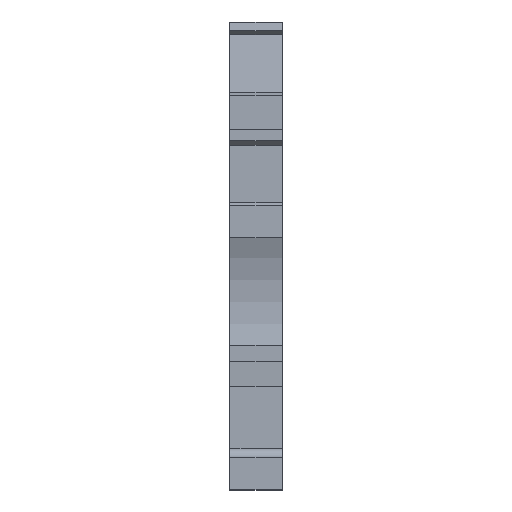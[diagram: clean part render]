
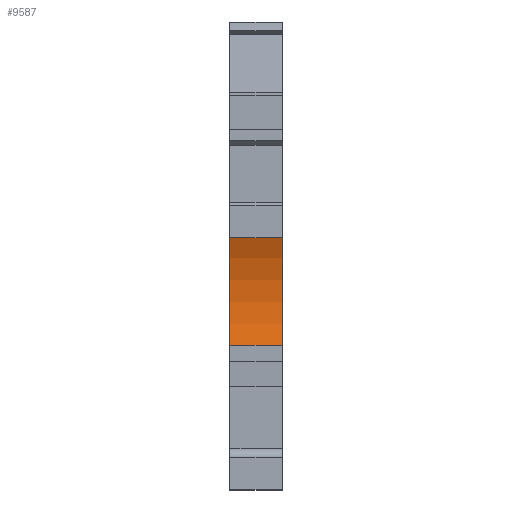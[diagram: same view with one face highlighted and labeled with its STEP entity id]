
A CAD part, front view. The second image highlights one B-rep face of the part: STEP entity #9587.
In plain terms, the highlighted cylindrical face has radius 15 mm (diameter 30 mm), a partial arc.
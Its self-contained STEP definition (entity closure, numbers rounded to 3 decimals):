
#676=CARTESIAN_POINT('',(5.15,0.,24.838));
#677=VERTEX_POINT('',#676);
#684=CARTESIAN_POINT('',(5.15,0.6,14.25));
#685=VERTEX_POINT('',#684);
#686=CARTESIAN_POINT('',(5.15,-13.709,18.75));
#687=DIRECTION('',(1.,0.,0.));
#688=DIRECTION('',(0.,0.,-1.));
#689=AXIS2_PLACEMENT_3D('',#686,#687,#688);
#690=CIRCLE('',#689,15.);
#691=EDGE_CURVE('',#685,#677,#690,.T.);
#1333=CARTESIAN_POINT('',(0.,0.6,14.25));
#1334=VERTEX_POINT('',#1333);
#1341=CARTESIAN_POINT('',(0.,0.,24.838));
#1342=VERTEX_POINT('',#1341);
#1343=CARTESIAN_POINT('',(0.,-13.709,18.75));
#1344=DIRECTION('',(1.,0.,0.));
#1345=DIRECTION('',(0.,0.,-1.));
#1346=AXIS2_PLACEMENT_3D('',#1343,#1344,#1345);
#1347=CIRCLE('',#1346,15.);
#1348=EDGE_CURVE('',#1334,#1342,#1347,.T.);
#2382=CARTESIAN_POINT('',(0.,0.6,14.25));
#2383=DIRECTION('',(1.,0.,0.));
#2384=VECTOR('',#2383,5.15);
#2385=LINE('',#2382,#2384);
#2386=EDGE_CURVE('',#1334,#685,#2385,.T.);
#2397=CARTESIAN_POINT('',(0.,0.,24.838));
#2398=DIRECTION('',(1.,0.,0.));
#2399=VECTOR('',#2398,5.15);
#2400=LINE('',#2397,#2399);
#2401=EDGE_CURVE('',#1342,#677,#2400,.T.);
#9576=CARTESIAN_POINT('',(0.,-13.709,18.75));
#9577=DIRECTION('',(1.,0.,0.));
#9578=DIRECTION('',(0.,0.,-1.));
#9579=AXIS2_PLACEMENT_3D('',#9576,#9577,#9578);
#9580=CYLINDRICAL_SURFACE('',#9579,15.);
#9581=ORIENTED_EDGE('',*,*,#2386,.T.);
#9582=ORIENTED_EDGE('',*,*,#691,.T.);
#9583=ORIENTED_EDGE('',*,*,#2401,.F.);
#9584=ORIENTED_EDGE('',*,*,#1348,.F.);
#9585=EDGE_LOOP('',(#9581,#9582,#9583,#9584));
#9586=FACE_BOUND('',#9585,.T.);
#9587=ADVANCED_FACE('',(#9586),#9580,.F.);
